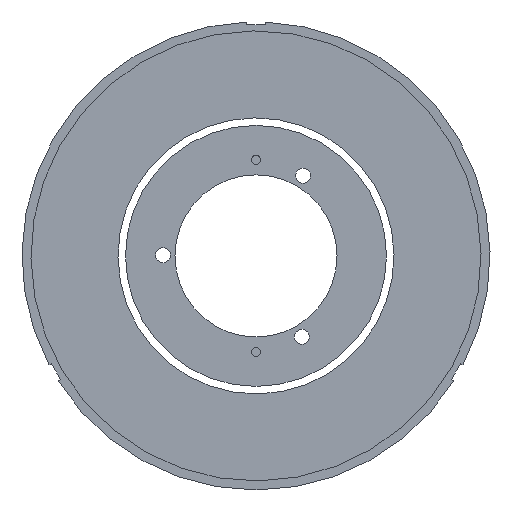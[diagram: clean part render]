
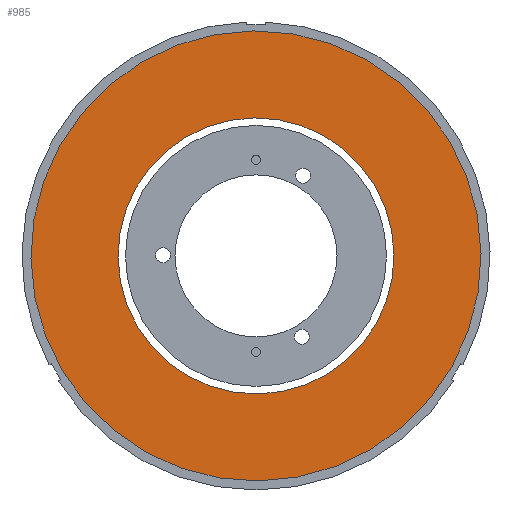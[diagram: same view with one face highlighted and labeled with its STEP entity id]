
A CAD part, front view. The second image highlights one B-rep face of the part: STEP entity #985.
In plain terms, the highlighted planar face has unit normal (0, -1, 0).
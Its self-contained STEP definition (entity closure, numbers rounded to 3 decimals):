
#13 = CIRCLE ( 'NONE', #762, 23. ) ;
#35 = AXIS2_PLACEMENT_3D ( 'NONE', #1194, #1352, #1204 ) ;
#102 = DIRECTION ( 'NONE',  ( 0., 1., 0. ) ) ;
#202 = EDGE_LOOP ( 'NONE', ( #1427, #738 ) ) ;
#276 = CARTESIAN_POINT ( 'NONE',  ( 4.957, 8.005, 60.903 ) ) ;
#304 = DIRECTION ( 'NONE',  ( -0.163, 0., -0.987 ) ) ;
#351 = AXIS2_PLACEMENT_3D ( 'NONE', #1289, #1951, #1641 ) ;
#365 = EDGE_CURVE ( 'NONE', #800, #2082, #696, .T. ) ;
#413 = DIRECTION ( 'NONE',  ( -0.987, 0., 0.163 ) ) ;
#552 = EDGE_CURVE ( 'NONE', #668, #1072, #1696, .T. ) ;
#578 = CARTESIAN_POINT ( 'NONE',  ( 7.322, 8.005, 75.209 ) ) ;
#668 = VERTEX_POINT ( 'NONE', #2044 ) ;
#696 = CIRCLE ( 'NONE', #1497, 37.5 ) ;
#731 = CIRCLE ( 'NONE', #351, 37.5 ) ;
#738 = ORIENTED_EDGE ( 'NONE', *, *, #365, .F. ) ;
#751 = CARTESIAN_POINT ( 'NONE',  ( 1.204, 8.005, 38.212 ) ) ;
#762 = AXIS2_PLACEMENT_3D ( 'NONE', #751, #1571, #304 ) ;
#784 = AXIS2_PLACEMENT_3D ( 'NONE', #1708, #102, #413 ) ;
#800 = VERTEX_POINT ( 'NONE', #1148 ) ;
#813 = DIRECTION ( 'NONE',  ( 0., 1., 0. ) ) ;
#898 = EDGE_LOOP ( 'NONE', ( #1556, #920 ) ) ;
#920 = ORIENTED_EDGE ( 'NONE', *, *, #552, .T. ) ;
#985 = ADVANCED_FACE ( 'NONE', ( #1330, #1997 ), #1192, .F. ) ;
#1072 = VERTEX_POINT ( 'NONE', #276 ) ;
#1148 = CARTESIAN_POINT ( 'NONE',  ( -4.914, 8.005, 1.214 ) ) ;
#1192 = PLANE ( 'NONE',  #784 ) ;
#1194 = CARTESIAN_POINT ( 'NONE',  ( 1.204, 8.005, 38.212 ) ) ;
#1204 = DIRECTION ( 'NONE',  ( -0.163, 0., -0.987 ) ) ;
#1289 = CARTESIAN_POINT ( 'NONE',  ( 1.204, 8.005, 38.212 ) ) ;
#1330 = FACE_BOUND ( 'NONE', #898, .T. ) ;
#1352 = DIRECTION ( 'NONE',  ( 0., 1., 0. ) ) ;
#1427 = ORIENTED_EDGE ( 'NONE', *, *, #1859, .F. ) ;
#1449 = CARTESIAN_POINT ( 'NONE',  ( 1.204, 8.005, 38.212 ) ) ;
#1497 = AXIS2_PLACEMENT_3D ( 'NONE', #1449, #813, #1926 ) ;
#1556 = ORIENTED_EDGE ( 'NONE', *, *, #1668, .T. ) ;
#1571 = DIRECTION ( 'NONE',  ( 0., 1., 0. ) ) ;
#1641 = DIRECTION ( 'NONE',  ( -0.163, 0., -0.987 ) ) ;
#1668 = EDGE_CURVE ( 'NONE', #1072, #668, #13, .T. ) ;
#1696 = CIRCLE ( 'NONE', #35, 23. ) ;
#1708 = CARTESIAN_POINT ( 'NONE',  ( 1.204, 8.005, 38.212 ) ) ;
#1859 = EDGE_CURVE ( 'NONE', #2082, #800, #731, .T. ) ;
#1926 = DIRECTION ( 'NONE',  ( -0.163, 0., -0.987 ) ) ;
#1951 = DIRECTION ( 'NONE',  ( 0., 1., 0. ) ) ;
#1997 = FACE_OUTER_BOUND ( 'NONE', #202, .T. ) ;
#2044 = CARTESIAN_POINT ( 'NONE',  ( -2.549, 8.005, 15.52 ) ) ;
#2082 = VERTEX_POINT ( 'NONE', #578 ) ;
